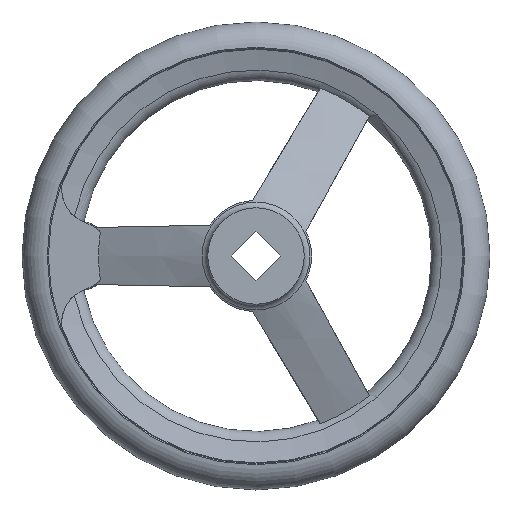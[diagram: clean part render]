
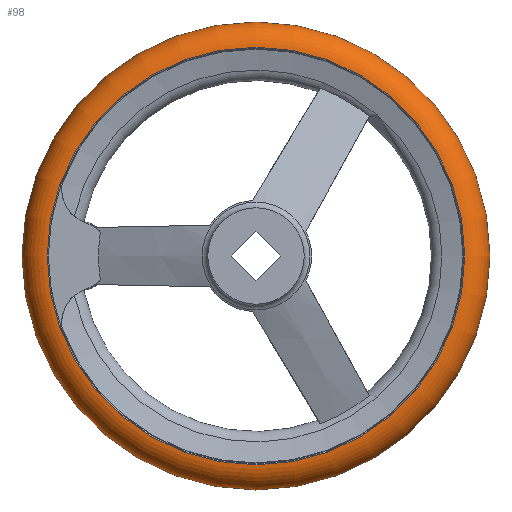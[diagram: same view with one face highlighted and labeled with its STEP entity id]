
A CAD part, left-side view. The second image highlights one B-rep face of the part: STEP entity #98.
In plain terms, the highlighted toroidal (fillet/blend) face has major radius 70.992 mm and minor radius 9.008 mm.
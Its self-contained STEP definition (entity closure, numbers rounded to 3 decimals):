
#98 = ADVANCED_FACE( '', ( #176, #177, #178 ), #179, .T. );
#176 = FACE_BOUND( '', #289, .T. );
#177 = FACE_OUTER_BOUND( '', #290, .T. );
#178 = FACE_OUTER_BOUND( '', #291, .T. );
#179 = TOROIDAL_SURFACE( '', #292, 70.992, 9.008 );
#289 = VERTEX_LOOP( '', #575 );
#290 = EDGE_LOOP( '', ( #576 ) );
#291 = EDGE_LOOP( '', ( #577 ) );
#292 = AXIS2_PLACEMENT_3D( '', #578, #579, #580 );
#575 = VERTEX_POINT( '', #786 );
#576 = ORIENTED_EDGE( '', *, *, #787, .T. );
#577 = ORIENTED_EDGE( '', *, *, #788, .F. );
#578 = CARTESIAN_POINT( '', ( 31., 0., 0. ) );
#579 = DIRECTION( '', ( 1., 0., 0. ) );
#580 = DIRECTION( '', ( 0., 1., 0. ) );
#786 = CARTESIAN_POINT( '', ( 31., 80., 0. ) );
#787 = EDGE_CURVE( '', #947, #947, #948, .T. );
#788 = EDGE_CURVE( '', #949, #949, #950, .T. );
#947 = VERTEX_POINT( '', #1505 );
#948 = CIRCLE( '', #1506, 71.375 );
#949 = VERTEX_POINT( '', #1507 );
#950 = CIRCLE( '', #1508, 71.375 );
#1505 = CARTESIAN_POINT( '', ( 22., 71.375, 0. ) );
#1506 = AXIS2_PLACEMENT_3D( '', #1639, #1640, #1641 );
#1507 = CARTESIAN_POINT( '', ( 40., 71.375, 0. ) );
#1508 = AXIS2_PLACEMENT_3D( '', #1642, #1643, #1644 );
#1639 = CARTESIAN_POINT( '', ( 22., 0., 0. ) );
#1640 = DIRECTION( '', ( 1., 0., 0. ) );
#1641 = DIRECTION( '', ( 0., 1., 0. ) );
#1642 = CARTESIAN_POINT( '', ( 40., 0., 0. ) );
#1643 = DIRECTION( '', ( 1., 0., 0. ) );
#1644 = DIRECTION( '', ( 0., 1., 0. ) );
